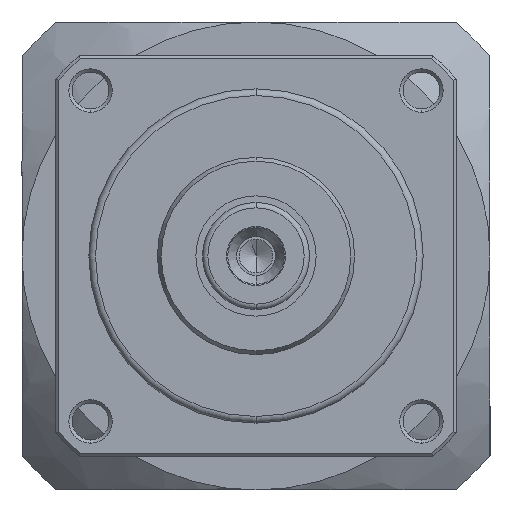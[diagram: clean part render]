
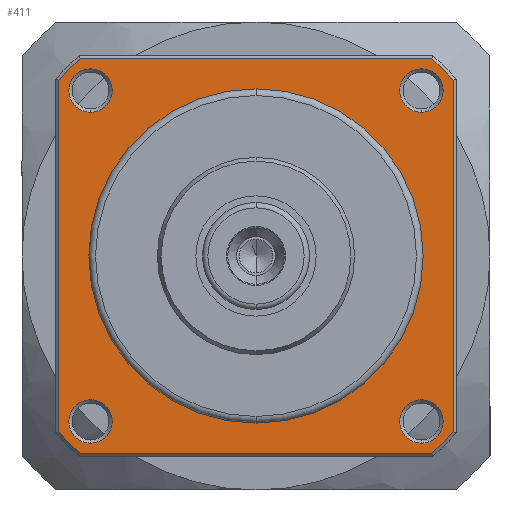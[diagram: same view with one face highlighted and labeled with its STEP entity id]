
A CAD part, left-side view. The second image highlights one B-rep face of the part: STEP entity #411.
In plain terms, the highlighted planar face has unit normal (-1, 0, 0).
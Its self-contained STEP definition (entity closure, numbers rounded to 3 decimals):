
#127=PLANE('',#4517);
#229=FACE_BOUND('',#1029,.T.);
#230=FACE_BOUND('',#1030,.T.);
#231=FACE_BOUND('',#1031,.T.);
#232=FACE_BOUND('',#1032,.T.);
#233=FACE_BOUND('',#1033,.T.);
#234=FACE_BOUND('',#1034,.T.);
#411=ADVANCED_FACE('',(#229,#230,#231,#232,#233,#234),#127,.F.);
#1029=EDGE_LOOP('',(#2028,#2029));
#1030=EDGE_LOOP('',(#2030,#2031));
#1031=EDGE_LOOP('',(#2032,#2033));
#1032=EDGE_LOOP('',(#2034,#2035));
#1033=EDGE_LOOP('',(#2036,#2037,#2038,#2039,#2040,#2041,#2042,#2043));
#1034=EDGE_LOOP('',(#2044,#2045));
#1365=LINE('',#6576,#1660);
#1366=LINE('',#6581,#1661);
#1367=LINE('',#6585,#1662);
#1368=LINE('',#6589,#1663);
#1660=VECTOR('',#5192,1.);
#1661=VECTOR('',#5195,1.);
#1662=VECTOR('',#5198,1.);
#1663=VECTOR('',#5201,1.);
#2028=ORIENTED_EDGE('',*,*,#3580,.T.);
#2029=ORIENTED_EDGE('',*,*,#3649,.T.);
#2030=ORIENTED_EDGE('',*,*,#3572,.T.);
#2031=ORIENTED_EDGE('',*,*,#3650,.T.);
#2032=ORIENTED_EDGE('',*,*,#3564,.T.);
#2033=ORIENTED_EDGE('',*,*,#3651,.T.);
#2034=ORIENTED_EDGE('',*,*,#3556,.T.);
#2035=ORIENTED_EDGE('',*,*,#3652,.T.);
#2036=ORIENTED_EDGE('',*,*,#3653,.T.);
#2037=ORIENTED_EDGE('',*,*,#3654,.T.);
#2038=ORIENTED_EDGE('',*,*,#3655,.T.);
#2039=ORIENTED_EDGE('',*,*,#3656,.T.);
#2040=ORIENTED_EDGE('',*,*,#3657,.T.);
#2041=ORIENTED_EDGE('',*,*,#3658,.T.);
#2042=ORIENTED_EDGE('',*,*,#3659,.T.);
#2043=ORIENTED_EDGE('',*,*,#3660,.T.);
#2044=ORIENTED_EDGE('',*,*,#3614,.F.);
#2045=ORIENTED_EDGE('',*,*,#3661,.F.);
#3181=VERTEX_POINT('',#6363);
#3182=VERTEX_POINT('',#6365);
#3189=VERTEX_POINT('',#6381);
#3190=VERTEX_POINT('',#6383);
#3197=VERTEX_POINT('',#6399);
#3198=VERTEX_POINT('',#6401);
#3205=VERTEX_POINT('',#6417);
#3206=VERTEX_POINT('',#6419);
#3228=VERTEX_POINT('',#6487);
#3229=VERTEX_POINT('',#6488);
#3258=VERTEX_POINT('',#6577);
#3259=VERTEX_POINT('',#6578);
#3260=VERTEX_POINT('',#6580);
#3261=VERTEX_POINT('',#6582);
#3262=VERTEX_POINT('',#6584);
#3263=VERTEX_POINT('',#6586);
#3264=VERTEX_POINT('',#6588);
#3265=VERTEX_POINT('',#6590);
#3556=EDGE_CURVE('',#3182,#3181,#4176,.T.);
#3564=EDGE_CURVE('',#3190,#3189,#4180,.T.);
#3572=EDGE_CURVE('',#3198,#3197,#4184,.T.);
#3580=EDGE_CURVE('',#3206,#3205,#4188,.T.);
#3614=EDGE_CURVE('',#3228,#3229,#4203,.T.);
#3649=EDGE_CURVE('',#3205,#3206,#4218,.T.);
#3650=EDGE_CURVE('',#3197,#3198,#4219,.T.);
#3651=EDGE_CURVE('',#3189,#3190,#4220,.T.);
#3652=EDGE_CURVE('',#3181,#3182,#4221,.T.);
#3653=EDGE_CURVE('',#3258,#3259,#1365,.T.);
#3654=EDGE_CURVE('',#3259,#3260,#4222,.T.);
#3655=EDGE_CURVE('',#3260,#3261,#1366,.T.);
#3656=EDGE_CURVE('',#3261,#3262,#4223,.T.);
#3657=EDGE_CURVE('',#3262,#3263,#1367,.T.);
#3658=EDGE_CURVE('',#3263,#3264,#4224,.T.);
#3659=EDGE_CURVE('',#3264,#3265,#1368,.T.);
#3660=EDGE_CURVE('',#3265,#3258,#4225,.T.);
#3661=EDGE_CURVE('',#3229,#3228,#4226,.T.);
#4176=CIRCLE('',#4439,3.25);
#4180=CIRCLE('',#4445,3.25);
#4184=CIRCLE('',#4451,3.25);
#4188=CIRCLE('',#4457,3.25);
#4203=CIRCLE('',#4484,25.);
#4218=CIRCLE('',#4508,3.25);
#4219=CIRCLE('',#4509,3.25);
#4220=CIRCLE('',#4510,3.25);
#4221=CIRCLE('',#4511,3.25);
#4222=CIRCLE('',#4512,39.5);
#4223=CIRCLE('',#4513,39.5);
#4224=CIRCLE('',#4514,39.5);
#4225=CIRCLE('',#4515,39.5);
#4226=CIRCLE('',#4516,25.);
#4439=AXIS2_PLACEMENT_3D('',#6364,#4999,#5000);
#4445=AXIS2_PLACEMENT_3D('',#6382,#5015,#5016);
#4451=AXIS2_PLACEMENT_3D('',#6400,#5031,#5032);
#4457=AXIS2_PLACEMENT_3D('',#6418,#5047,#5048);
#4484=AXIS2_PLACEMENT_3D('',#6486,#5120,#5121);
#4508=AXIS2_PLACEMENT_3D('',#6572,#5184,#5185);
#4509=AXIS2_PLACEMENT_3D('',#6573,#5186,#5187);
#4510=AXIS2_PLACEMENT_3D('',#6574,#5188,#5189);
#4511=AXIS2_PLACEMENT_3D('',#6575,#5190,#5191);
#4512=AXIS2_PLACEMENT_3D('',#6579,#5193,#5194);
#4513=AXIS2_PLACEMENT_3D('',#6583,#5196,#5197);
#4514=AXIS2_PLACEMENT_3D('',#6587,#5199,#5200);
#4515=AXIS2_PLACEMENT_3D('',#6591,#5202,#5203);
#4516=AXIS2_PLACEMENT_3D('',#6592,#5204,#5205);
#4517=AXIS2_PLACEMENT_3D('',#6593,#5206,#5207);
#4999=DIRECTION('',(1.,0.,0.));
#5000=DIRECTION('',(0.,0.,-1.));
#5015=DIRECTION('',(1.,0.,0.));
#5016=DIRECTION('',(0.,0.,-1.));
#5031=DIRECTION('',(1.,0.,0.));
#5032=DIRECTION('',(0.,0.,-1.));
#5047=DIRECTION('',(1.,0.,0.));
#5048=DIRECTION('',(0.,0.,-1.));
#5120=DIRECTION('',(-1.,0.,0.));
#5121=DIRECTION('',(0.,0.,1.));
#5184=DIRECTION('',(1.,0.,0.));
#5185=DIRECTION('',(0.,0.,-1.));
#5186=DIRECTION('',(1.,0.,0.));
#5187=DIRECTION('',(0.,0.,-1.));
#5188=DIRECTION('',(1.,0.,0.));
#5189=DIRECTION('',(0.,0.,-1.));
#5190=DIRECTION('',(1.,0.,0.));
#5191=DIRECTION('',(0.,0.,-1.));
#5192=DIRECTION('',(0.,1.,0.));
#5193=DIRECTION('',(-1.,0.,0.));
#5194=DIRECTION('',(0.,0.,-1.));
#5195=DIRECTION('',(0.,0.,-1.));
#5196=DIRECTION('',(-1.,0.,0.));
#5197=DIRECTION('',(0.,0.,-1.));
#5198=DIRECTION('',(0.,-1.,0.));
#5199=DIRECTION('',(-1.,0.,0.));
#5200=DIRECTION('',(0.,0.,-1.));
#5201=DIRECTION('',(0.,0.,1.));
#5202=DIRECTION('',(-1.,0.,0.));
#5203=DIRECTION('',(0.,0.,-1.));
#5204=DIRECTION('',(-1.,0.,0.));
#5205=DIRECTION('',(0.,0.,1.));
#5206=DIRECTION('',(1.,0.,0.));
#5207=DIRECTION('',(0.,0.,1.));
#6363=CARTESIAN_POINT('',(-135.535,56.927,21.499));
#6364=CARTESIAN_POINT('',(-135.535,56.927,24.749));
#6365=CARTESIAN_POINT('',(-135.535,56.927,27.999));
#6381=CARTESIAN_POINT('',(-135.535,56.927,-27.999));
#6382=CARTESIAN_POINT('',(-135.535,56.927,-24.749));
#6383=CARTESIAN_POINT('',(-135.535,56.927,-21.499));
#6399=CARTESIAN_POINT('',(-135.535,7.43,-27.999));
#6400=CARTESIAN_POINT('',(-135.535,7.43,-24.749));
#6401=CARTESIAN_POINT('',(-135.535,7.43,-21.499));
#6417=CARTESIAN_POINT('',(-135.535,7.43,21.499));
#6418=CARTESIAN_POINT('',(-135.535,7.43,24.749));
#6419=CARTESIAN_POINT('',(-135.535,7.43,27.999));
#6486=CARTESIAN_POINT('',(-135.535,32.179,0.));
#6487=CARTESIAN_POINT('',(-135.535,32.179,25.));
#6488=CARTESIAN_POINT('',(-135.535,32.179,-25.));
#6572=CARTESIAN_POINT('',(-135.535,7.43,24.749));
#6573=CARTESIAN_POINT('',(-135.535,7.43,-24.749));
#6574=CARTESIAN_POINT('',(-135.535,56.927,-24.749));
#6575=CARTESIAN_POINT('',(-135.535,56.927,24.749));
#6576=CARTESIAN_POINT('',(-135.535,58.636,29.5));
#6577=CARTESIAN_POINT('',(-135.535,5.911,29.5));
#6578=CARTESIAN_POINT('',(-135.535,58.446,29.5));
#6579=CARTESIAN_POINT('',(-135.535,32.179,0.));
#6580=CARTESIAN_POINT('',(-135.535,61.679,26.268));
#6581=CARTESIAN_POINT('',(-135.535,61.679,-26.458));
#6582=CARTESIAN_POINT('',(-135.535,61.679,-26.268));
#6583=CARTESIAN_POINT('',(-135.535,32.179,0.));
#6584=CARTESIAN_POINT('',(-135.535,58.446,-29.5));
#6585=CARTESIAN_POINT('',(-135.535,5.721,-29.5));
#6586=CARTESIAN_POINT('',(-135.535,5.911,-29.5));
#6587=CARTESIAN_POINT('',(-135.535,32.179,0.));
#6588=CARTESIAN_POINT('',(-135.535,2.679,-26.268));
#6589=CARTESIAN_POINT('',(-135.535,2.679,26.458));
#6590=CARTESIAN_POINT('',(-135.535,2.679,26.268));
#6591=CARTESIAN_POINT('',(-135.535,32.179,0.));
#6592=CARTESIAN_POINT('',(-135.535,32.179,0.));
#6593=CARTESIAN_POINT('',(-135.535,57.179,0.));
